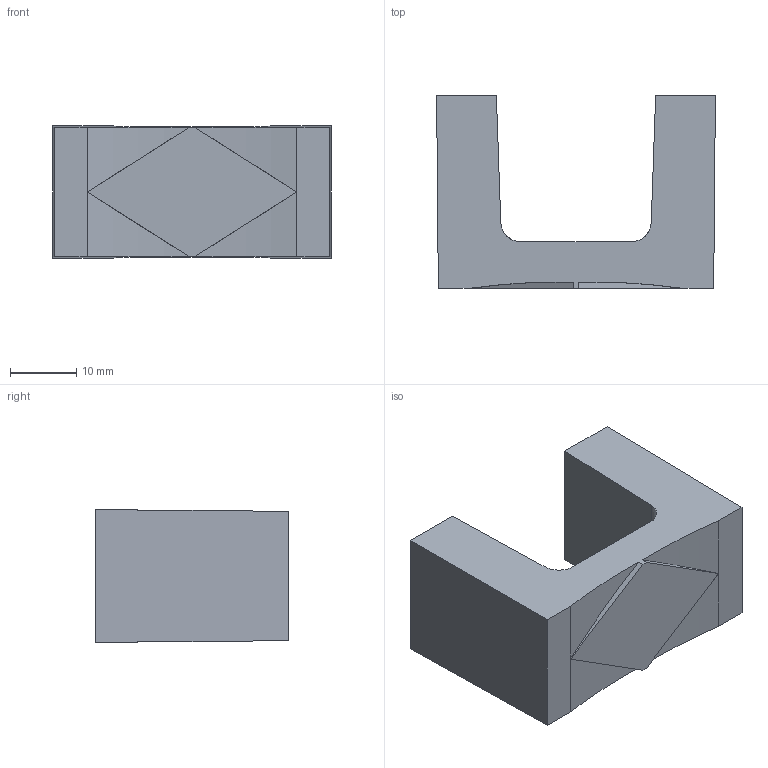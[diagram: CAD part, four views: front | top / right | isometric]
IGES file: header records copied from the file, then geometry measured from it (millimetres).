
Start section: Data from Parasolid IGES Translator 15.0.47, Copyright(c) 2006 Siemens P LM Software. All Rights Reserved.
Global section: file name: 9118534.igs; native system:  By UGS Corp.; preprocessor: XPlus GENERIC/IGES 3.0; author: Noname; organization: Noname; date: 20140122.103324; units: millimetre
Bounding box: 42 x 29 x 20 mm (x, y, z)
Surface area: 6130.8 mm2 (no closed solid volume)
Topology: 0 solids, 0 shells, 60 faces, 312 edges, 310 vertices
Faces by surface type: extrusion 36, revolution 24
